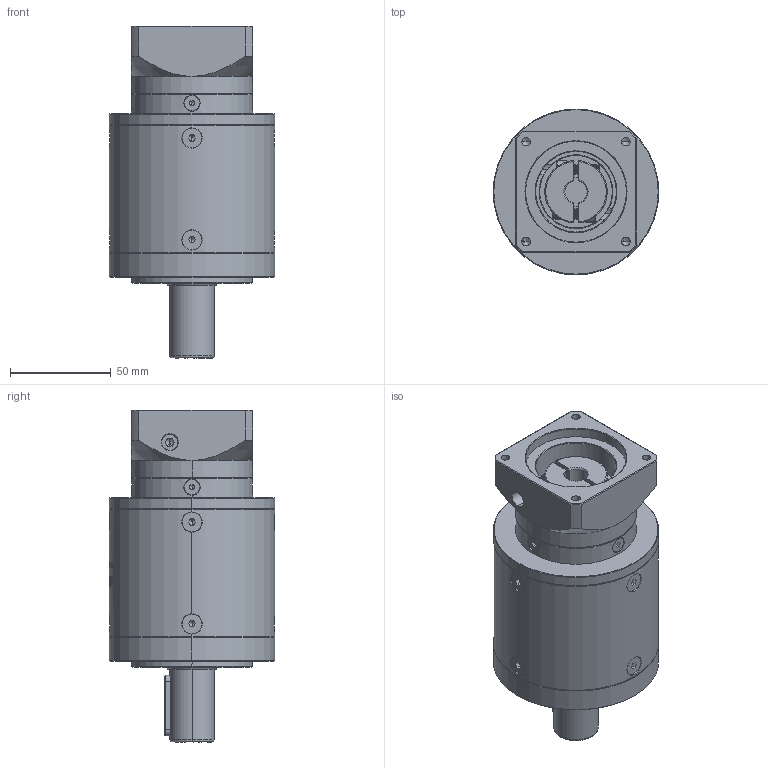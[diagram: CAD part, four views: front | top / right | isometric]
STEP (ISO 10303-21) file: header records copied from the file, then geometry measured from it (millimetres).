
FILE_DESCRIPTION (( 'STEP AP214' ), '1' );
FILE_NAME ('ZE80-D22-L3-11-50-70-M5.step', '2022-05-08T06:04:29', ( '' ), ( 'Microsoft' ), 'SwSTEP 2.0', 'SolidWorks 2016', '' );
FILE_SCHEMA (( 'AUTOMOTIVE_DESIGN' ));
Length unit declared in the file: millimetre
Products named in the file (1): ZE80-D22-L3-11-50-70-M5
Bounding box: 82 x 82 x 164.5 mm (x, y, z)
Volume: 549044.6 mm3; surface area: 69247.6 mm2
Topology: 18 solids, 18 shells, 1986 faces, 5197 edges, 3302 vertices
Faces by surface type: plane 935, cylinder 397, bspline 328, cone 312, torus 14
Entity records: 106865 total; most frequent: CARTESIAN_POINT 39593, ORIENTED_EDGE 10302, DIRECTION 8222, EDGE_CURVE 5151, VERTEX_POINT 3302, LINE 2808, VECTOR 2808, AXIS2_PLACEMENT_3D 2707
